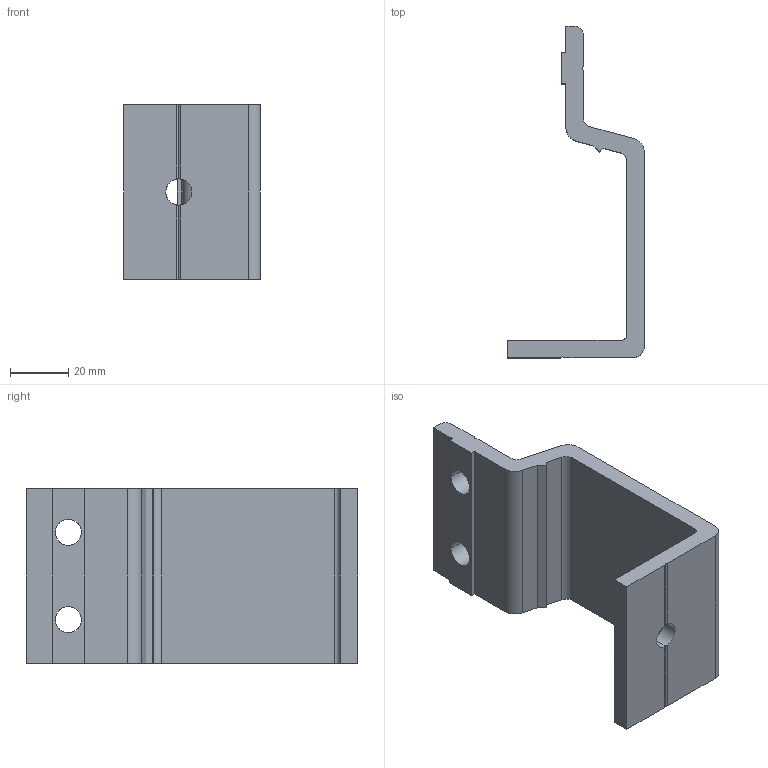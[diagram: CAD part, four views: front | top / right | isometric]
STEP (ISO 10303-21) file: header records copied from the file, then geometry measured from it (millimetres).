
FILE_DESCRIPTION (( 'STEP AP214' ), '1' );
FILE_NAME ('FAHBS 60.step', '2017-04-05T07:55:16', ( '' ), ( '' ), 'SwSTEP 2.0', 'SolidWorks 2015', '' );
FILE_SCHEMA (( 'AUTOMOTIVE_DESIGN' ));
Length unit declared in the file: millimetre
Products named in the file (1): FAHBS 60
Bounding box: 47 x 114 x 60 mm (x, y, z)
Volume: 60889.7 mm3; surface area: 23367.9 mm2
Topology: 1 solids, 1 shells, 44 faces, 133 edges, 88 vertices
Faces by surface type: plane 31, cylinder 13
Entity records: 1537 total; most frequent: CARTESIAN_POINT 302, ORIENTED_EDGE 266, DIRECTION 241, EDGE_CURVE 133, LINE 91, VECTOR 91, VERTEX_POINT 88, AXIS2_PLACEMENT_3D 75
